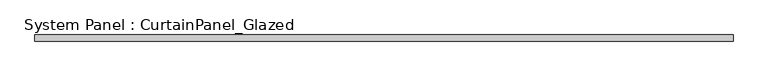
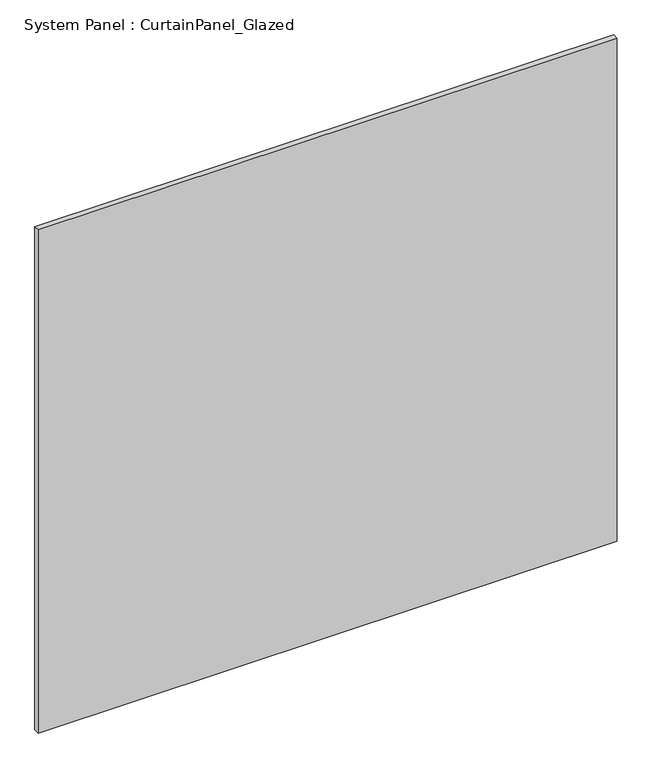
"""IFC4 building model written with IfcOpenShell, lengths in millimetres: plate geometry, System Panel : CurtainPanel_Glazed."""

import ifcopenshell
import ifcopenshell.guid

model = None  # the IFC model being written
_history = None  # IfcOwnerHistory: only IFC2X3 demands one
_inside = {}  # id of a spatial element -> (the spatial element, [elements in it])
_under = {}  # id of a project, library or spatial element -> (it, [spatial elements below it])
_declared = {}  # id of a project -> (the project, [libraries it declares])
_typed = {}  # id of a type object -> (the type object, [elements of that type])
_made_of = {}  # id of a material, layer set ... -> (it, [elements and type objects made of it])


def new_model(schema):
    """Start an empty IFC model of exactly this schema.

    Asked for "IFC4X3", IfcOpenShell would pick the latest addendum, in which some entities
    have other attributes; the version numbers below select the first issue.
    IFC2X3 requires an IfcOwnerHistory on every rooted entity: one is made here for all.
    """
    global model, _history
    if schema == "IFC4X3":
        model = ifcopenshell.file(schema_version=(4, 3, 0, 0))
    else:
        model = ifcopenshell.file(schema=schema)
    _inside.clear()
    _under.clear()
    _declared.clear()
    _typed.clear()
    _made_of.clear()
    _history = None
    if model.schema == "IFC2X3":
        org = make("IfcOrganization", Name="unknown")
        user = make(
            "IfcPersonAndOrganization",
            ThePerson=make("IfcPerson", FamilyName="unknown"),
            TheOrganization=org,
        )
        app = make(
            "IfcApplication",
            ApplicationDeveloper=org,
            Version="unknown",
            ApplicationFullName="unknown",
            ApplicationIdentifier="unknown",
        )
        _history = make(
            "IfcOwnerHistory",
            OwningUser=user,
            OwningApplication=app,
            ChangeAction="ADDED",
            CreationDate=0,
        )
    return model


def make(cls, **values):
    """One entity of the class cls with the attributes given. An attribute that is None is left unset."""
    return model.create_entity(
        cls, **{name: value for name, value in values.items() if value is not None}
    )


def rooted(cls, **values):
    """An entity with a GlobalId (a new one), such as an element, a storey or a relation."""
    return make(cls, GlobalId=ifcopenshell.guid.new(), OwnerHistory=_history, **values)


def si_unit(unit_type, name, prefix=None):
    """IfcSIUnit, for example si_unit("LENGTHUNIT", "METRE", prefix="MILLI")."""
    return make("IfcSIUnit", UnitType=unit_type, Prefix=prefix, Name=name)


def assignment(units):
    """IfcUnitAssignment: the units of a project."""
    return None if units is None else make("IfcUnitAssignment", Units=units)


def point(xyz):
    """IfcCartesianPoint."""
    return None if xyz is None else make("IfcCartesianPoint", Coordinates=xyz)


def direction(xyz):
    """IfcDirection."""
    return None if xyz is None else make("IfcDirection", DirectionRatios=xyz)


def frame(location, z_axis=None, x_axis=None):
    """IfcAxis2Placement3D, a coordinate frame: its origin and axes. An axis left out is left unset."""
    return make(
        "IfcAxis2Placement3D",
        Location=point(location),
        Axis=direction(z_axis),
        RefDirection=direction(x_axis),
    )


def origin():
    """The frame at (0, 0, 0) with its axes left unset."""
    return frame((0.0, 0.0, 0.0))


def origin_with_axes():
    """The frame at (0, 0, 0) with the z axis (0, 0, 1) and the x axis (1, 0, 0) written out."""
    return frame((0.0, 0.0, 0.0), z_axis=(0.0, 0.0, 1.0), x_axis=(1.0, 0.0, 0.0))


def place(relative_to, where):
    """IfcLocalPlacement: puts the frame where relative to a parent placement (None: the world)."""
    return make(
        "IfcLocalPlacement", PlacementRelTo=relative_to, RelativePlacement=where
    )


def context(
    kind, dimensions, precision=None, world=None, true_north=None, identifier=None
):
    """IfcGeometricRepresentationContext, for example the 3D "Model" context."""
    return make(
        "IfcGeometricRepresentationContext",
        ContextIdentifier=identifier,
        ContextType=kind,
        CoordinateSpaceDimension=dimensions,
        Precision=precision,
        WorldCoordinateSystem=world,
        TrueNorth=true_north,
    )


def project(units=None, contexts=None):
    """IfcProject with its units and contexts."""
    return rooted(
        "IfcProject",
        Name="project",
        RepresentationContexts=contexts,
        UnitsInContext=assignment(units),
    )


def spatial(cls, under=None, at=None, **own):
    """A site, building, storey or space (cls), placed at a placement, below another one or the project."""
    s = rooted(cls, ObjectPlacement=at, **own)
    if under is not None:
        _under.setdefault(under.id(), (under, []))[1].append(s)
    return s


def polyline(points):
    """IfcPolyline through the points."""
    return make("IfcPolyline", Points=[point(p) for p in points])


def outline(outer, holes=None, kind="AREA"):
    """IfcArbitraryClosedProfileDef: a profile drawn as a closed curve; with holes, ...WithVoids."""
    if holes is None:
        return make("IfcArbitraryClosedProfileDef", ProfileType=kind, OuterCurve=outer)
    return make(
        "IfcArbitraryProfileDefWithVoids",
        ProfileType=kind,
        OuterCurve=outer,
        InnerCurves=holes,
    )


def extrude(swept, where, along, depth):
    """IfcExtrudedAreaSolid: the profile swept, set in the frame where, extruded along a direction by depth."""
    return make(
        "IfcExtrudedAreaSolid",
        SweptArea=swept,
        Position=where,
        ExtrudedDirection=direction(along),
        Depth=depth,
    )


def shape(context_of_items, identifier, shape_type, items):
    """IfcShapeRepresentation: the items that make up one representation, for example the "Body"."""
    return make(
        "IfcShapeRepresentation",
        ContextOfItems=context_of_items,
        RepresentationIdentifier=identifier,
        RepresentationType=shape_type,
        Items=items,
    )


def source(mapping_origin, context_of_items, identifier, shape_type, items):
    """IfcRepresentationMap: a shape defined once, which mapped items show again and again."""
    return make(
        "IfcRepresentationMap",
        MappingOrigin=mapping_origin,
        MappedRepresentation=shape(context_of_items, identifier, shape_type, items),
    )


def transform(
    local_origin,
    x_axis=None,
    y_axis=None,
    z_axis=None,
    scale=None,
    scale2=None,
    scale3=None,
    uniform=True,
):
    """IfcCartesianTransformationOperator3D, or its non-uniform kind. x_axis, y_axis, z_axis: its Axis1, 2, 3."""
    if uniform:
        return make(
            "IfcCartesianTransformationOperator3D",
            Axis1=direction(x_axis),
            Axis2=direction(y_axis),
            LocalOrigin=point(local_origin),
            Scale=scale,
            Axis3=direction(z_axis),
        )
    return make(
        "IfcCartesianTransformationOperator3DnonUniform",
        Axis1=direction(x_axis),
        Axis2=direction(y_axis),
        LocalOrigin=point(local_origin),
        Scale=scale,
        Axis3=direction(z_axis),
        Scale2=scale2,
        Scale3=scale3,
    )


def mapped(mapping_source, mapping_target):
    """IfcMappedItem: shows the shape of a source again, moved by a transform."""
    return make(
        "IfcMappedItem", MappingSource=mapping_source, MappingTarget=mapping_target
    )


def made_of(thing, what):
    """Note that an element or type object is made of a material, layer set ...; save() writes the relation."""
    if what is not None:
        _made_of.setdefault(what.id(), (what, []))[1].append(thing)
    return thing


def element(
    cls,
    number,
    at=None,
    inside=None,
    cuts=None,
    type_object=None,
    material=None,
    context=None,
    identifier="Body",
    shape_type=None,
    held_by="IfcProductDefinitionShape",
    body=None,
    shapes=None,
    **own,
):
    """One element of the class cls, such as IfcWall. Its Tag is "e" and its number.

    at: its placement. inside: the storey or other place that contains it. cuts: it is an
    opening in that element (IfcRelVoidsElement). A single representation is given by context,
    identifier, shape_type and body (its items); several are given by shapes. held_by: the class
    of the entity that holds the representations. save() writes the other relations.
    """
    e = rooted(cls, Tag="e%d" % number, ObjectPlacement=at, **own)
    if body is not None:
        shapes = [shape(context, identifier, shape_type, body)]
    if shapes is not None:
        e.Representation = make(held_by, Representations=shapes)
    if inside is not None:
        _inside.setdefault(inside.id(), (inside, []))[1].append(e)
    if cuts is not None:
        rooted(
            "IfcRelVoidsElement", RelatingBuildingElement=cuts, RelatedOpeningElement=e
        )
    if type_object is not None:
        _typed.setdefault(type_object.id(), (type_object, []))[1].append(e)
    return made_of(e, material)


def aggregate(whole, parts):
    """IfcRelAggregates: a whole, such as a stair, and the parts it consists of."""
    return rooted("IfcRelAggregates", RelatingObject=whole, RelatedObjects=parts)


def save(model, path):
    """Write the relations noted so far, then the file.

    IfcRelAggregates (storeys below a building ...), IfcRelContainedInSpatialStructure (elements
    in a storey), IfcRelDefinesByType, IfcRelAssociatesMaterial and IfcRelDeclares: one each for
    every whole, place, type object, material and project.
    """
    for whole, parts in _under.values():
        aggregate(whole, parts)
    for where, things in _inside.values():
        rooted(
            "IfcRelContainedInSpatialStructure",
            RelatedElements=things,
            RelatingStructure=where,
        )
    for kind, things in _typed.values():
        rooted("IfcRelDefinesByType", RelatedObjects=things, RelatingType=kind)
    for what, things in _made_of.values():
        rooted("IfcRelAssociatesMaterial", RelatedObjects=things, RelatingMaterial=what)
    for by, libraries in _declared.values():
        rooted("IfcRelDeclares", RelatingContext=by, RelatedDefinitions=libraries)
    model.write(path)


def system_panel_curtainpanel_glazed_add7ee21(model_context):
    return source(origin(), model_context, "Body", "SweptSolid", [
        extrude(outline(polyline([(1325.9999999, -12.5), (-1325.9999999, -12.5), (-1325.9999999, 12.5), (1325.9999999, 12.5), (1325.9999999, -12.5)])), origin_with_axes(), (0.0, 0.0, 1.0), 2436.7),
    ])


if __name__ == "__main__":
    model = new_model("IFC4")
    model_context = context("Model", 3, world=origin())
    ifc_project = project(units=[si_unit("LENGTHUNIT", "METRE", prefix="MILLI")], contexts=[model_context])
    site = spatial("IfcSite", under=ifc_project)
    building = spatial("IfcBuilding", under=site)
    placement = place(None, origin())
    system_panel_curtainpanel_glazed_shape = system_panel_curtainpanel_glazed_add7ee21(model_context)
    element("IfcPlate", 1, ObjectType="System Panel : CurtainPanel_Glazed", at=placement, inside=building, context=model_context, shape_type="MappedRepresentation", body=[
        mapped(system_panel_curtainpanel_glazed_shape, transform((0.0, 0.0, 0.0), x_axis=(1.0, 0.0, 0.0), y_axis=(0.0, 1.0, 0.0), z_axis=(0.0, 0.0, 1.0))),
    ])
    save(model, "model.ifc")
